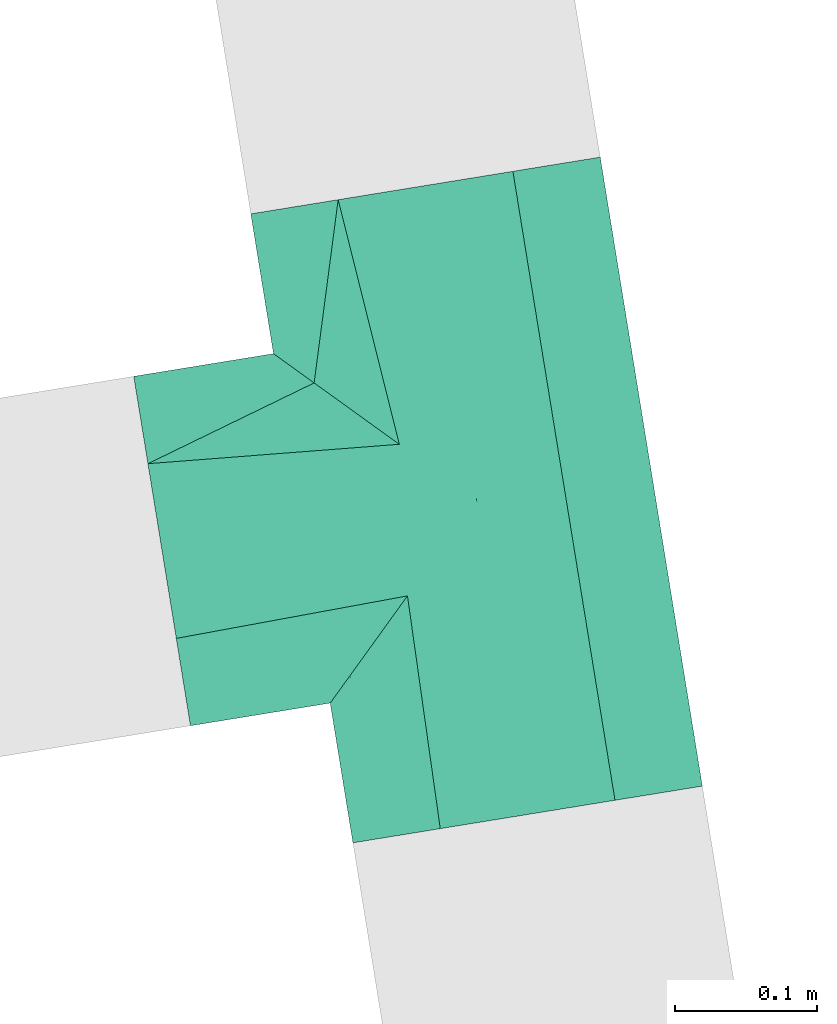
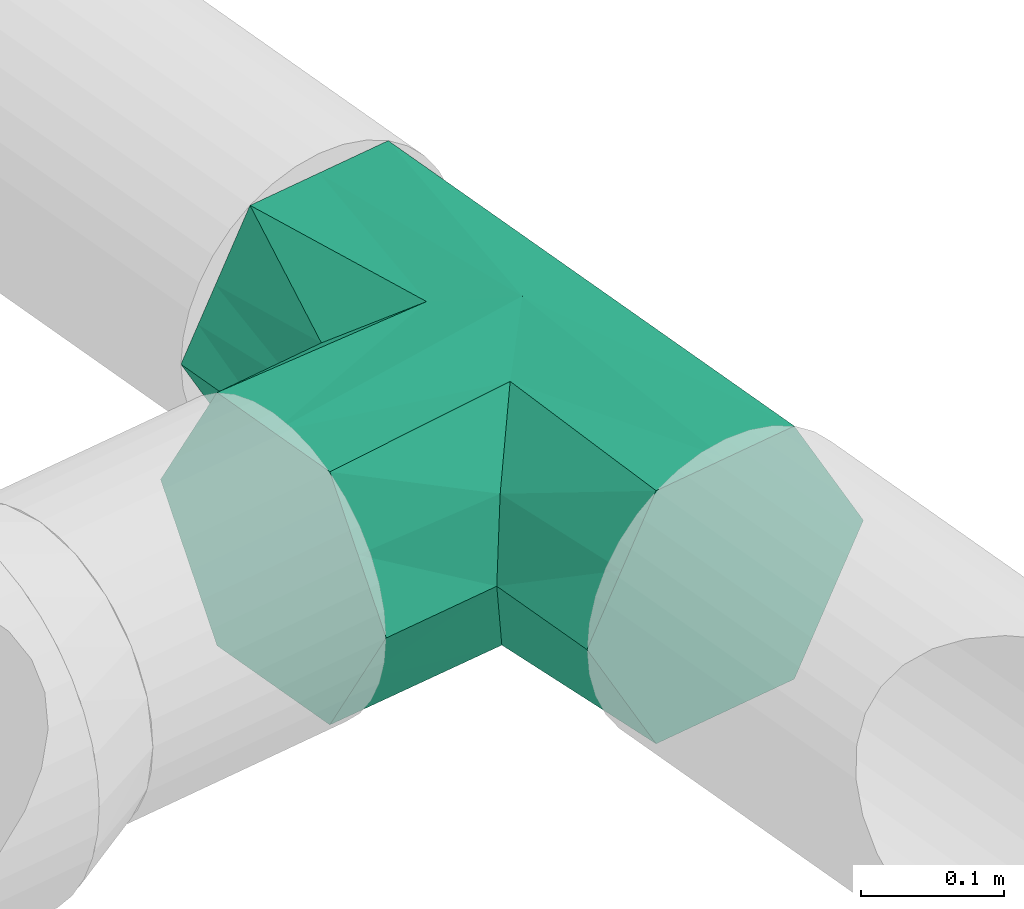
# One storey, part 38 of 39: 1 flow fitting.
"""IFC2X3 building model written with IfcOpenShell, lengths in millimetres."""

from ifc_helpers import new_model, entity, si_unit, converted_unit, derived_unit, direction, frame, origin, origin_with_axes, place, context, subcontext, project, spatial, faceted_brep, source, transform, mapped, material, type_object, element, save


model = new_model("IFC2X3")

# Units and contexts
plan_context = context("Plan", 3, precision=1e-05, world=origin_with_axes())
model_context = context("Model", 3, precision=0.01, world=origin(), true_north=direction((6.12323399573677e-17, 1.0)))
body_context = subcontext(model_context, "Body", "Model", "MODEL_VIEW")
ifc_project = project(units=[converted_unit("PLANEANGLEUNIT", "DEGREE", entity("IfcPositiveLengthMeasure", 0.0174532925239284), si_unit("PLANEANGLEUNIT", "RADIAN"), dimensions=[0, 0, 0, 0, 0, 0, 0]), si_unit("AREAUNIT", "SQUARE_METRE"), si_unit("LENGTHUNIT", "METRE", prefix="MILLI"), si_unit("MASSUNIT", "GRAM", prefix="KILO"), si_unit("POWERUNIT", "WATT"), si_unit("PRESSUREUNIT", "PASCAL", prefix="KILO"), si_unit("FORCEUNIT", "NEWTON", prefix="KILO"), si_unit("ELECTRICVOLTAGEUNIT", "VOLT"), si_unit("ELECTRICCURRENTUNIT", "AMPERE"), si_unit("THERMODYNAMICTEMPERATUREUNIT", "DEGREE_CELSIUS"), si_unit("TIMEUNIT", "SECOND"), si_unit("VOLUMEUNIT", "CUBIC_METRE"), derived_unit("LINEARVELOCITYUNIT", [(si_unit("LENGTHUNIT", "METRE"), 1), (si_unit("TIMEUNIT", "SECOND"), -1)]), derived_unit("VOLUMETRICFLOWRATEUNIT", [(si_unit("VOLUMEUNIT", "CUBIC_METRE"), 1), (si_unit("TIMEUNIT", "SECOND"), -1)]), derived_unit("THERMALTRANSMITTANCEUNIT", [(si_unit("POWERUNIT", "WATT"), 1), (si_unit("THERMODYNAMICTEMPERATUREUNIT", "KELVIN"), -1), (si_unit("AREAUNIT", "SQUARE_METRE"), -1)]), derived_unit("SOUNDPRESSUREUNIT", [(si_unit("PRESSUREUNIT", "PASCAL"), 1)])], contexts=[model_context, plan_context])

# Site, building, storey
site_placement = place(None, frame((-0.00071070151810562, 0.00438415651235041, 0.0), z_axis=(0.0, 0.0, 1.0), x_axis=(-0.160236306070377, 0.987078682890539, 0.0)))
site = spatial("IfcSite", under=ifc_project, at=site_placement, Name="Default", CompositionType="ELEMENT")
building_placement = place(site_placement, origin_with_axes())
building = spatial("IfcBuilding", under=site, at=building_placement, CompositionType="ELEMENT")
storey_placement = place(building_placement, frame((0.0, 0.0, 58999.9999999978), z_axis=(0.0, 0.0, 1.0), x_axis=(1.0, 0.0, 0.0)))
storey = spatial("IfcBuildingStorey", under=building, at=storey_placement, Name="Nivå F", CompositionType="ELEMENT", Elevation=58999.9999999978)

# Flow fitting
ifc_material = material(Name="<Unnamed>")
duct_fitting_type = type_object("IfcDuctFittingType", Name="magicirc_tee_centric_90_1:magicirc_tee_centric_90_001", PredefinedType="NOTDEFINED", material=ifc_material)
shared_shape = source(origin(), body_context, "Body", "Brep", [
    faceted_brep([(-225.0, -125.0, 0.0), (-225.0, -109.375, 27.0632938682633), (-225.0, -93.7499999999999, 54.1265877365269), (-225.0, -62.5000000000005, 108.253175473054), (-225.0, 0.0, 108.253175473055), (-225.0, 62.4999999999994, 108.253175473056), (-225.0, 93.75, 54.1265877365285), (-225.0, 125.0, 0.0), (-225.0, 93.7500000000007, -54.1265877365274), (-225.0, 62.5000000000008, -108.253175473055), (-225.0, 0.0, -108.253175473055), (-225.0, -62.4999999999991, -108.253175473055), (-225.0, -93.7499999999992, -54.1265877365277), (225.0, 62.4999999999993, -108.253175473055), (225.0, 93.7499999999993, -54.1265877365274), (225.0, 125.0, 0.0), (225.0, 99.1118287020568, 44.8396280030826), (225.0, 62.499999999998, 108.253175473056), (225.0, 0.0, 108.253175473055), (225.0, -62.5000000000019, 108.253175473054), (225.0, -93.7500000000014, 54.1265877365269), (225.0, -125.0, 0.0), (225.0, -109.375000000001, -27.063293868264), (225.0, -93.7500000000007, -54.1265877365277), (225.0, -62.5000000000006, -108.253175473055), (225.0, 0.0, -108.253175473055), (125.0, -125.0, 0.0), (-125.0, -125.0, 0.0), (108.218707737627, -108.218707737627, 62.5596618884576), (-112.494430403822, -112.494430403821, 37.5074249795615), (-99.9888608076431, -99.9888608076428, 75.0148499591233), (-47.5890111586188, -47.5890111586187, 115.586703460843), (59.0209382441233, -59.0209382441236, 110.188605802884), (0.0, 0.0, 125.0), (47.5890111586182, -47.5890111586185, -115.586703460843), (0.0, 0.0, -125.0), (-108.218707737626, -108.218707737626, -62.559661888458), (-59.0209382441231, -59.0209382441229, -110.188605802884), (112.494430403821, -112.494430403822, -37.5074249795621), (99.9888608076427, -99.9888608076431, -75.0148499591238), (62.5000000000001, -225.0, -108.253175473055), (93.75, -225.0, -54.1265877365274), (125.0, -225.0, 0.0), (93.7499999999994, -225.0, 54.1265877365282), (62.4999999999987, -225.0, 108.253175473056), (0.0, -225.0, 108.253175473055), (-62.5000000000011, -225.0, 108.253175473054), (-93.7500000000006, -225.0, 54.1265877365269), (-125.0, -225.0, 0.0), (-93.7499999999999, -225.0, -54.1265877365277), (-62.4999999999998, -225.0, -108.253175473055), (0.0, -225.0, -108.253175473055)], [[[0, 1, 2, 3, 4, 5, 6, 7, 8, 9, 10, 11, 12]], [[13, 14, 15, 16, 17, 18, 19, 20, 21, 22, 23, 24, 25]], [[21, 20, 26]], [[27, 1, 0]], [[28, 20, 19]], [[29, 2, 1]], [[29, 30, 2]], [[27, 29, 1]], [[31, 3, 30]], [[32, 18, 33]], [[6, 5, 17, 16, 15, 7]], [[26, 20, 28]], [[19, 32, 28]], [[32, 19, 18]], [[33, 18, 17]], [[4, 3, 31]], [[33, 5, 4]], [[5, 33, 17]], [[4, 31, 33]], [[30, 3, 2]], [[7, 15, 14, 13, 9, 8]], [[34, 25, 24]], [[35, 25, 34]], [[9, 35, 10]], [[27, 12, 36]], [[13, 35, 9]], [[10, 37, 11]], [[37, 10, 35]], [[35, 13, 25]], [[26, 38, 22]], [[38, 39, 23]], [[39, 24, 23]], [[11, 36, 12]], [[11, 37, 36]], [[0, 12, 27]], [[26, 22, 21]], [[38, 23, 22]], [[39, 34, 24]], [[40, 41, 42, 43, 44, 45, 46, 47, 48, 49, 50, 51]], [[47, 30, 29, 27]], [[47, 46, 30]], [[28, 44, 43]], [[45, 32, 33]], [[31, 30, 46]], [[31, 46, 45]], [[32, 45, 44]], [[43, 42, 26]], [[43, 26, 28]], [[47, 27, 48]], [[45, 33, 31]], [[28, 32, 44]], [[41, 39, 38, 26]], [[41, 40, 39]], [[36, 50, 49]], [[51, 37, 35]], [[34, 39, 40]], [[34, 40, 51]], [[37, 51, 50]], [[49, 48, 27]], [[49, 27, 36]], [[41, 26, 42]], [[51, 35, 34]], [[36, 37, 50]]]),
])
flow_fitting_placement = place(storey_placement, frame((783802.619644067, -507290.980498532, 3130.0), z_axis=(0.0, 0.0, 1.0), x_axis=(-1.0, 0.0, 0.0)))
element("IfcFlowFitting", 1, at=flow_fitting_placement, inside=storey, type_object=duct_fitting_type, material=ifc_material, Name="magicirc_tee_centric_90_1:magicirc_tee_centric_90_001", ObjectType="magicirc_tee_centric_90_1:magicirc_tee_centric_90_001", context=body_context, shape_type="MappedRepresentation", body=[
    mapped(shared_shape, transform((0.0, 0.0, 0.0), scale=1.0)),
])

save(model, "model.ifc")
